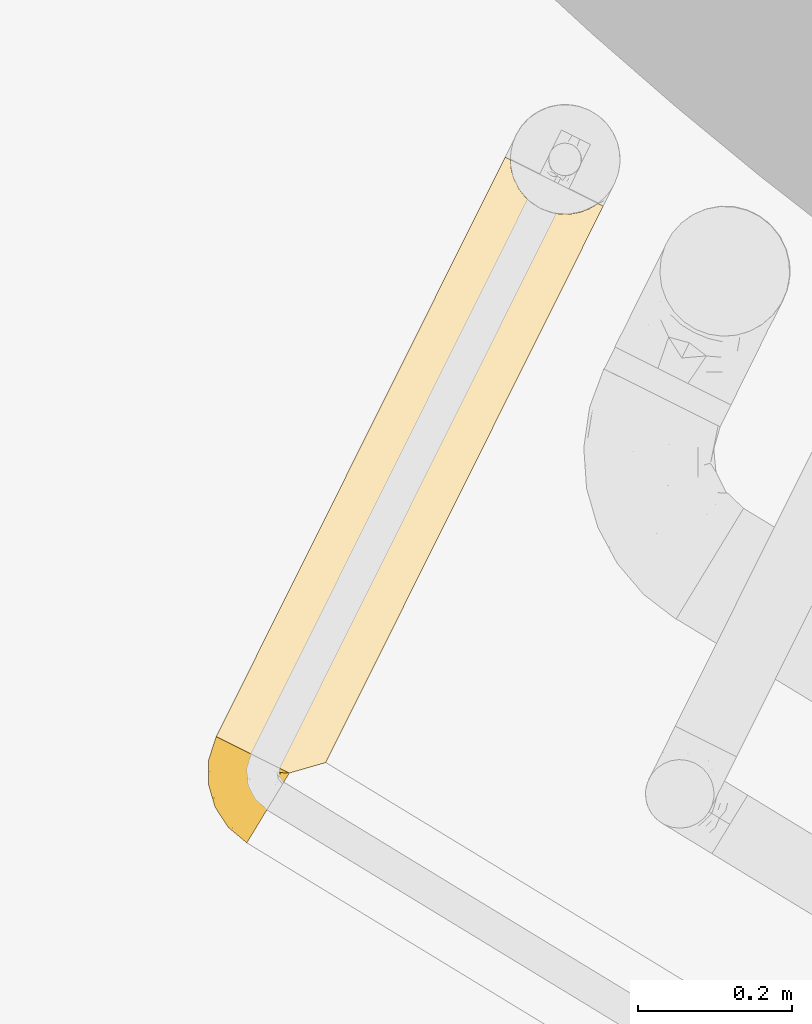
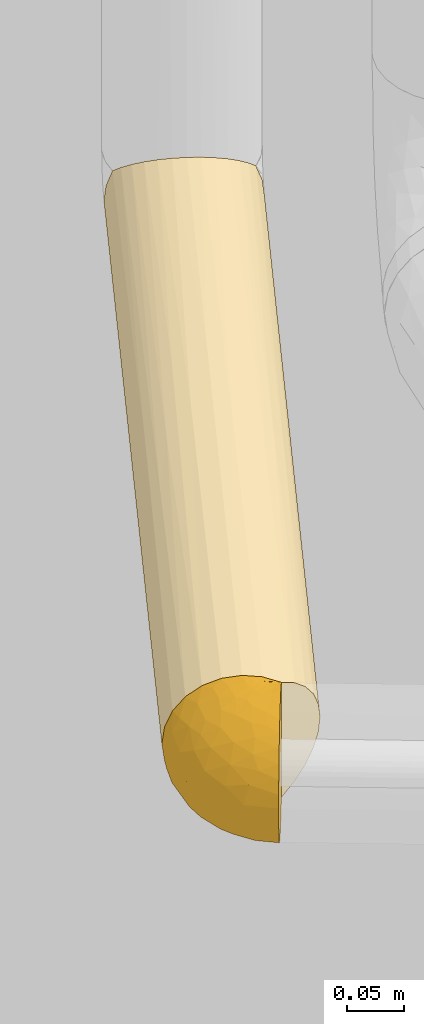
# One storey, part 19 of 47: 2 coverings.
"""IFC2X3 building model written with IfcOpenShell, lengths in metres."""

from ifc_helpers import new_model, entity, si_unit, converted_unit, derived_unit, direction, frame, origin, place, context, subcontext, project, spatial, faceted_brep, element, save


model = new_model("IFC2X3")

# Units and contexts
model_context = context("Model", 3, precision=1e-05, world=origin(), true_north=direction((0.894925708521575, 0.446215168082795)))
context_of_model = context(None, 3, precision=1e-05, world=origin(), true_north=direction((0.894925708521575, 0.446215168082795)))
body_context = subcontext(model_context, "Body", "Model", "MODEL_VIEW")
ifc_project = project(units=[si_unit("LENGTHUNIT", "METRE"), si_unit("AREAUNIT", "SQUARE_METRE"), si_unit("VOLUMEUNIT", "CUBIC_METRE"), converted_unit("PLANEANGLEUNIT", "DEGREE", entity("IfcRatioMeasure", 0.0174532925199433), si_unit("PLANEANGLEUNIT", "RADIAN"), dimensions=[0, 0, 0, 0, 0, 0, 0]), si_unit("MASSUNIT", "GRAM", prefix="KILO"), si_unit("TIMEUNIT", "SECOND"), si_unit("FREQUENCYUNIT", "HERTZ"), si_unit("THERMODYNAMICTEMPERATUREUNIT", "DEGREE_CELSIUS"), derived_unit("THERMALTRANSMITTANCEUNIT", [(si_unit("MASSUNIT", "GRAM", prefix="KILO"), 1), (si_unit("THERMODYNAMICTEMPERATUREUNIT", "KELVIN"), -1), (si_unit("TIMEUNIT", "SECOND"), -3)]), derived_unit("VOLUMETRICFLOWRATEUNIT", [(si_unit("LENGTHUNIT", "METRE"), 3), (si_unit("TIMEUNIT", "SECOND"), -1)]), si_unit("ELECTRICCURRENTUNIT", "AMPERE"), si_unit("ELECTRICVOLTAGEUNIT", "VOLT"), si_unit("POWERUNIT", "WATT"), si_unit("FORCEUNIT", "NEWTON", prefix="KILO"), si_unit("ILLUMINANCEUNIT", "LUX"), si_unit("LUMINOUSFLUXUNIT", "LUMEN"), si_unit("LUMINOUSINTENSITYUNIT", "CANDELA"), si_unit("PRESSUREUNIT", "PASCAL")], contexts=[model_context, context_of_model])

# Site, building, storey
site_placement = place(None, frame((218.228324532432, 584.720189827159, 0.0), z_axis=(0.0, 0.0, 1.0), x_axis=(0.446215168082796, 0.894925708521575, 0.0)))
site = spatial("IfcSite", under=ifc_project, at=site_placement, Name="Default", CompositionType="ELEMENT")
building_placement = place(site_placement, origin())
building = spatial("IfcBuilding", under=site, at=building_placement, CompositionType="ELEMENT")
storey_placement = place(building_placement, frame((0.0, 0.0, 4.69)))
storey = spatial("IfcBuildingStorey", under=building, at=storey_placement, Name="1 - Piano Primo", CompositionType="ELEMENT", Elevation=4.69)

# Coverings
covering_1_placement = place(storey_placement, frame((66.0961811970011, -1.84655450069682, 2.8873227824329)))
element("IfcCovering", 1, at=covering_1_placement, inside=storey, Name="Isolamento tubazione:Default", ObjectType="Isolamento tubazione:Default", PredefinedType="INSULATION", context=body_context, shape_type="Brep", body=[
    faceted_brep([(0.84076615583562, 0.108218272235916, 0.0111184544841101), (0.84076615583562, 0.122939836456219, 0.0224147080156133), (0.84076615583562, 0.134236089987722, 0.0371362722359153), (0.84076615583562, 0.141337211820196, 0.0542798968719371), (0.84076615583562, 0.143759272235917, 0.0726772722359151), (0.84076615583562, 0.141830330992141, 0.089124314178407), (0.84076615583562, 0.136153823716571, 0.104667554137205), (0.84076615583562, 0.00921095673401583, 0.104687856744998), (0.84076615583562, 0.00352683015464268, 0.0891353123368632), (0.84076615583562, 0.00159527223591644, 0.0726772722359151), (0.84076615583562, 0.00401733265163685, 0.0542798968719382), (0.84076615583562, 0.0111184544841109, 0.0371362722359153), (0.84076615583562, 0.0224147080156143, 0.0224147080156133), (0.84076615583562, 0.0371362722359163, 0.0111184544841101), (0.84076615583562, 0.054279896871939, 0.00401733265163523), (0.84076615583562, 0.0726772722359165, 0.00159527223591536), (0.84076615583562, 0.0910746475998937, 0.00401733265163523), (0.0015952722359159, 0.141337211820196, 0.0910746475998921), (0.0015952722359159, 0.143759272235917, 0.0726772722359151), (0.0015952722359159, 0.141337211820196, 0.0542798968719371), (0.0015952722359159, 0.134236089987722, 0.0371362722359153), (0.0015952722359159, 0.122939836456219, 0.0224147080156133), (0.0015952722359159, 0.108218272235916, 0.0111184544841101), (0.0015952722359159, 0.0910746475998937, 0.00401733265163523), (0.0015952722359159, 0.0726772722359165, 0.00159527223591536), (0.0015952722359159, 0.0546774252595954, 0.00391204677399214), (0.0015952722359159, 0.0378514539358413, 0.0107110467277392), (0.0015952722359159, 0.0378514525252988, 0.134643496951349), (0.0015952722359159, 0.0546774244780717, 0.141442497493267), (0.0015952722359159, 0.0726772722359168, 0.143759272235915), (0.0015952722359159, 0.0910746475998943, 0.141337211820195), (0.0015952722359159, 0.108218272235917, 0.13423608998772), (0.0015952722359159, 0.122939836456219, 0.122939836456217), (0.0015952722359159, 0.134236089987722, 0.108218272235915), (0.417337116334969, 0.0319197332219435, 0.0144409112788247), (0.335674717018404, 0.0460465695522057, 0.00677236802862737), (0.421575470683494, 0.00521001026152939, 0.0502982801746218), (0.0291388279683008, 0.00787524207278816, 0.0434651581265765), (0.462194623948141, 0.0162841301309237, 0.0294052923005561), (0.0221673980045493, 0.0154623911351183, 0.0304977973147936), (0.32929526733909, 0.00159527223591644, 0.0726772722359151), (0.0334502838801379, 0.0031829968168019, 0.0577375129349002), (0.251993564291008, 0.0726772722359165, 0.00159527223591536), (0.295981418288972, 0.0726772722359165, 0.00159527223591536), (0.0349091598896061, 0.00159527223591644, 0.0726772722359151), (0.443174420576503, 0.0594188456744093, 0.00284271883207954), (0.0128474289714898, 0.025605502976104, 0.019414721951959), (0.590367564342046, 0.0726772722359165, 0.00159527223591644), (0.490104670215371, 0.084918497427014, 0.00265725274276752), (0.447158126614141, 0.0998791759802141, 0.00700606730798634), (0.508429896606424, 0.142393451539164, 0.0588098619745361), (0.421180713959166, 0.138348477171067, 0.045475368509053), (0.421180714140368, 0.115949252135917, 0.0162841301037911), (0.447158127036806, 0.129070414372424, 0.0294052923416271), (0.421180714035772, 0.143759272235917, 0.0726772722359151), (0.251993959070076, 0.143759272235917, 0.0726772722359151), (0.432455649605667, 0.133248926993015, 0.109875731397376), (0.418784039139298, 0.141983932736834, 0.0884645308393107), (0.508792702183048, 0.10463823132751, 0.136168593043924), (0.395127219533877, 0.11569315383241, 0.129266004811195), (0.806439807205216, 0.0982485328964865, 0.139000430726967), (0.418434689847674, 0.0922175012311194, 0.141020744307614), (0.322690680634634, 0.125516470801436, 0.120223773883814), (0.507299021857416, 0.0726772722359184, 0.143759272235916), (0.802882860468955, 0.0856824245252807, 0.142559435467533), (0.829693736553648, 0.12922942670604, 0.115741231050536), (0.820075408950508, 0.120395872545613, 0.125361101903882), (0.801685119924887, 0.0726772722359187, 0.143759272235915), (0.812235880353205, 0.109951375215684, 0.133202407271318), (0.403985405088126, 0.0567184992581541, 0.141944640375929), (0.416931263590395, 0.04086740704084, 0.136244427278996), (0.322568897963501, 0.029676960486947, 0.129277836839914), (0.0128474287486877, 0.0256055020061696, 0.125939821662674), (0.420476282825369, 0.0199945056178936, 0.120397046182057), (0.802886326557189, 0.059675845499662, 0.142560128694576), (0.812241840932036, 0.0354128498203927, 0.133208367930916), (0.80644525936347, 0.0471130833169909, 0.139003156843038), (0.820080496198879, 0.0249699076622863, 0.12537127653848), (0.429160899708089, 0.00521116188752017, 0.0950597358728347), (0.349680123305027, 0.0112628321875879, 0.108467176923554), (0.0291388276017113, 0.00787524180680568, 0.101889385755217), (0.0221673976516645, 0.015462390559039, 0.114856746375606), (0.829696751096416, 0.0161365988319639, 0.115756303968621), (0.0334502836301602, 0.00318299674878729, 0.0876170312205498)], [[[0, 1, 2, 3, 4, 5, 6, 7, 8, 9, 10, 11, 12, 13, 14, 15, 16]], [[17, 18, 19, 20, 21, 22, 23, 24, 25, 26, 27, 28, 29, 30, 31, 32, 33]], [[12, 34, 13]], [[26, 25, 35]], [[36, 37, 38]], [[37, 39, 38]], [[40, 36, 10]], [[40, 41, 36]], [[25, 24, 42, 43]], [[41, 40, 44]], [[11, 10, 36]], [[35, 45, 14]], [[38, 12, 11]], [[36, 41, 37]], [[34, 46, 26]], [[9, 40, 10]], [[35, 34, 26]], [[25, 45, 35]], [[47, 15, 14]], [[43, 45, 25]], [[12, 38, 34]], [[45, 43, 47]], [[35, 13, 34]], [[36, 38, 11]], [[13, 35, 14]], [[14, 45, 47]], [[38, 46, 34]], [[38, 39, 46]], [[48, 23, 49]], [[19, 50, 51]], [[23, 48, 42]], [[49, 52, 0]], [[52, 49, 22]], [[23, 42, 24]], [[21, 52, 22]], [[48, 15, 47, 43, 42]], [[52, 1, 0]], [[0, 16, 49]], [[20, 51, 53]], [[4, 50, 54]], [[51, 20, 19]], [[51, 2, 53]], [[21, 53, 52]], [[19, 18, 55, 54]], [[1, 52, 53]], [[20, 53, 21]], [[48, 49, 16]], [[2, 1, 53]], [[51, 50, 3]], [[2, 51, 3]], [[22, 49, 23]], [[54, 50, 19]], [[15, 48, 16]], [[50, 4, 3]], [[56, 57, 17]], [[17, 33, 56]], [[31, 58, 59]], [[60, 58, 61]], [[32, 59, 62]], [[63, 61, 29]], [[17, 55, 18]], [[61, 64, 60]], [[6, 57, 56]], [[65, 6, 56]], [[61, 30, 29]], [[66, 65, 62]], [[31, 30, 61]], [[66, 62, 59]], [[57, 4, 54, 55]], [[67, 64, 63]], [[4, 57, 5]], [[63, 64, 61]], [[32, 31, 59]], [[66, 59, 68]], [[62, 65, 56]], [[68, 58, 60]], [[58, 68, 59]], [[6, 5, 57]], [[62, 33, 32]], [[61, 58, 31]], [[33, 62, 56]], [[57, 55, 17]], [[69, 29, 28]], [[27, 70, 28]], [[28, 70, 69]], [[71, 72, 73]], [[74, 67, 63]], [[29, 69, 63]], [[71, 75, 70]], [[75, 76, 70]], [[74, 63, 69]], [[76, 74, 69]], [[75, 71, 77]], [[78, 79, 80]], [[27, 72, 71]], [[40, 8, 78]], [[72, 81, 73]], [[7, 82, 79]], [[83, 78, 80]], [[7, 78, 8]], [[73, 82, 77]], [[82, 73, 79]], [[40, 78, 83]], [[81, 79, 73]], [[7, 79, 78]], [[8, 40, 9]], [[83, 44, 40]], [[77, 71, 73]], [[80, 79, 81]], [[27, 71, 70]], [[76, 69, 70]], [[64, 67, 74, 76, 75, 77, 82, 7, 6, 65, 66, 68, 60]], [[26, 46, 39, 37, 41, 44, 83, 80, 81, 72, 27]]]),
])
covering_2_placement = place(storey_placement, frame((65.9906335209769, -1.81024584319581, 2.8873047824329)))
element("IfcCovering", 2, at=covering_2_placement, inside=storey, Name="Isolamento tubazione:Default", ObjectType="Isolamento tubazione:Default", PredefinedType="INSULATION", context=body_context, shape_type="Brep", body=[
    faceted_brep([(0.0956978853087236, 0.00251246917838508, 0.13985527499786), (0.0842299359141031, 0.00348408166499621, 0.142804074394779), (0.0724414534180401, 0.00448285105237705, 0.143795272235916), (0.0586159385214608, 0.00565420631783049, 0.142428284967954), (0.0453231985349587, 0.00678042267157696, 0.138380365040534), (0.0330739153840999, 0.00781823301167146, 0.131807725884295), (0.0223385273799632, 0.00872777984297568, 0.122963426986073), (0.0135292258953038, 0.00947414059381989, 0.112187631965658), (0.00698418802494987, 0.0100286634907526, 0.0998945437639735), (0.00295464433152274, 0.0103700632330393, 0.0865565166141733), (0.0015952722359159, 0.0104852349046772, 0.0726952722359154), (0.00295737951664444, 0.0103698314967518, 0.0588202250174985), (0.00699084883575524, 0.01002809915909, 0.0454798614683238), (0.0135400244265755, 0.00947322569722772, 0.033186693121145), (0.0223527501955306, 0.00872657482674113, 0.0224128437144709), (0.033090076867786, 0.00781686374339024, 0.0135719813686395), (0.0453392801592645, 0.00677906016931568, 0.00700349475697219), (0.0586296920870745, 0.00565304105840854, 0.00295951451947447), (0.0724414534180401, 0.00448285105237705, 0.00159527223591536), (0.0842464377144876, 0.00348268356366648, 0.00258926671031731), (0.0957136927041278, 0.00251112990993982, 0.00554078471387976), (0.106523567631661, 0.00159527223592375, 0.0103632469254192), (0.106523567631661, 0.0015952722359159, 0.0138043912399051), (0.106523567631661, 0.0015952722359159, 0.0190639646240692), (0.106523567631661, 0.0015952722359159, 0.0234143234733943), (0.106523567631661, 0.0015952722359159, 0.0277646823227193), (0.106523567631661, 0.00159527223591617, 0.0321150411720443), (0.106523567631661, 0.0015952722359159, 0.0364654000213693), (0.106523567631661, 0.0015952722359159, 0.0408157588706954), (0.106523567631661, 0.00159527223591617, 0.0451661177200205), (0.106523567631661, 0.0015952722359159, 0.0495164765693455), (0.106523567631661, 0.0015952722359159, 0.0538668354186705), (0.106523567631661, 0.0015952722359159, 0.0582171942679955), (0.106523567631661, 0.0015952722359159, 0.0625675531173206), (0.106523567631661, 0.0015952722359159, 0.0669179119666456), (0.106523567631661, 0.0015952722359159, 0.0712682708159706), (0.106523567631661, 0.00159527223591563, 0.0756186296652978), (0.106523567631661, 0.0015952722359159, 0.0799689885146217), (0.106523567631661, 0.0015952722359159, 0.0834101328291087), (0.106523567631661, 0.00159527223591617, 0.0868512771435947), (0.106523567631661, 0.0015952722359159, 0.0902924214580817), (0.106523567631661, 0.0015952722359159, 0.0937335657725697), (0.106523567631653, 0.0015952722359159, 0.0971747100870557), (0.106523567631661, 0.0015952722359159, 0.100615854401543), (0.106523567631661, 0.0015952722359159, 0.10405699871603), (0.106523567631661, 0.0015952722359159, 0.107498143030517), (0.106523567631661, 0.0015952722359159, 0.110939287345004), (0.106523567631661, 0.0015952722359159, 0.114380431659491), (0.106523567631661, 0.0015952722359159, 0.117821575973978), (0.106523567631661, 0.0015952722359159, 0.121262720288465), (0.106523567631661, 0.00159527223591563, 0.124703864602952), (0.106523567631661, 0.0015952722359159, 0.128145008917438), (0.10652356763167, 0.00159527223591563, 0.131586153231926), (0.106523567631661, 0.00159527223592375, 0.135027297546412), (0.10714294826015, 0.0363686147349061, 0.00159527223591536), (0.10714294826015, 0.0547706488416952, 0.00401794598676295), (0.10714294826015, 0.0719186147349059, 0.0111208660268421), (0.10714294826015, 0.0866439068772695, 0.0224199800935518), (0.10714294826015, 0.0979430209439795, 0.0371452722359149), (0.10714294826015, 0.105045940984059, 0.0542932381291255), (0.10714294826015, 0.107468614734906, 0.0726952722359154), (0.10714294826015, 0.105045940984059, 0.0910973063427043), (0.10714294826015, 0.0979430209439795, 0.108245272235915), (0.10714294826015, 0.0866439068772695, 0.122970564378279), (0.10714294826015, 0.0719186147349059, 0.134269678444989), (0.10714294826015, 0.0547706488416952, 0.141372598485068), (0.10714294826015, 0.0363686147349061, 0.143795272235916), (0.10714294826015, 0.0187135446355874, 0.141568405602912), (0.10714294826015, 0.00216439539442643, 0.135027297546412), (0.10714294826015, 0.00216439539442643, 0.131586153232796), (0.10714294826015, 0.00216439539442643, 0.1272357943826), (0.10714294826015, 0.00216439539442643, 0.123340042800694), (0.107142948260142, 0.00216439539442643, 0.119444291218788), (0.10714294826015, 0.00216439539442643, 0.115548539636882), (0.10714294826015, 0.00216439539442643, 0.111652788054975), (0.10714294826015, 0.00216439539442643, 0.10775703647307), (0.10714294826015, 0.00216439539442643, 0.103861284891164), (0.10714294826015, 0.00216439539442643, 0.0999655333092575), (0.10714294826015, 0.00216439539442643, 0.0960697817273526), (0.107142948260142, 0.00216439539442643, 0.0921740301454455), (0.107142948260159, 0.00216439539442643, 0.0882782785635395), (0.107142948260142, 0.00216439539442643, 0.0843825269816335), (0.10714294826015, 0.00216439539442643, 0.0804867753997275), (0.10714294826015, 0.00216439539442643, 0.0765910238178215), (0.10714294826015, 0.00216439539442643, 0.0726952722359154), (0.10714294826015, 0.00216439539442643, 0.0683449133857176), (0.107142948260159, 0.00216439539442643, 0.0639945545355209), (0.107142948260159, 0.00216439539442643, 0.059644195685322), (0.10714294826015, 0.00216439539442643, 0.0552938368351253), (0.107142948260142, 0.00216439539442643, 0.0509434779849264), (0.10714294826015, 0.00216439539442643, 0.0465931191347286), (0.10714294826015, 0.00216439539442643, 0.0422427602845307), (0.107142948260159, 0.00216439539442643, 0.0378924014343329), (0.10714294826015, 0.00216439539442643, 0.0344512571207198), (0.10714294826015, 0.00216439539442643, 0.0310101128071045), (0.10714294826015, 0.00216439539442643, 0.0275689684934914), (0.10714294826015, 0.00216439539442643, 0.0241278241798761), (0.107142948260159, 0.00216439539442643, 0.0206866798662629), (0.10714294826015, 0.00216439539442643, 0.0172455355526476), (0.10714294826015, 0.00216439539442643, 0.0138043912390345), (0.10714294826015, 0.00216439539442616, 0.0103632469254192), (0.10714294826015, 0.0102666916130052, 0.00716078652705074), (0.10714294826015, 0.0187135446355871, 0.00382213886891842), (0.106715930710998, 0.00199450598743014, 0.109218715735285), (0.106745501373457, 0.00202073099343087, 0.0361718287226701), (0.106743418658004, 0.00201899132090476, 0.0398022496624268), (0.106712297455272, 0.00199104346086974, 0.0593838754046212), (0.106733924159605, 0.00201086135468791, 0.0627726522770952), (0.106736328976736, 0.00201295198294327, 0.0785389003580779), (0.106722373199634, 0.00200051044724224, 0.0155249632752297), (0.106748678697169, 0.00202335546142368, 0.0190510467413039), (0.106722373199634, 0.00200051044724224, 0.129865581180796), (0.106722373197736, 0.00200051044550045, 0.135027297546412), (0.106722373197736, 0.00200051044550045, 0.0103632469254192), (0.10670962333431, 0.00198845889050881, 0.105454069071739), (0.106702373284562, 0.00198129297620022, 0.0255895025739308), (0.106751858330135, 0.00202594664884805, 0.0941219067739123), (0.106697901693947, 0.00197675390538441, 0.0886828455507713), (0.106685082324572, 0.00196320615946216, 0.0818180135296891), (0.106756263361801, 0.0020294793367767, 0.0661697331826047), (0.106745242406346, 0.00202051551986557, 0.074643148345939), (0.106740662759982, 0.00201666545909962, 0.0711818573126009), (0.106703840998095, 0.00198276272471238, 0.0851307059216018), (0.106708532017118, 0.00198739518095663, 0.0433993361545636), (0.106699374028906, 0.00197825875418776, 0.0469286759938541), (0.106748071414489, 0.00202285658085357, 0.11360066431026), (0.106690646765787, 0.00196918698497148, 0.0516916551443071), (0.106750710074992, 0.0020250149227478, 0.0327075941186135), (0.106683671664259, 0.00196166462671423, 0.10217519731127), (0.106697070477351, 0.00197589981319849, 0.119445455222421), (0.106700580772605, 0.00197948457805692, 0.122983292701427), (0.106692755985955, 0.0019714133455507, 0.126430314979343), (0.106615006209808, 0.00178165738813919, 0.0103632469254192), (0.106668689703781, 0.00189108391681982, 0.0103632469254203), (0.106668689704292, 0.00189108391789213, 0.135027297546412), (0.106615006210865, 0.00178165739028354, 0.135027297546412), (0.106949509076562, 0.0020890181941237, 0.135027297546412), (0.106835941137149, 0.00204476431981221, 0.135027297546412), (0.106835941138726, 0.00204476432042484, 0.0103632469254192), (0.106949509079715, 0.00208901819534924, 0.0103632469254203), (0.106769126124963, 0.00203942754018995, 0.0223480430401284), (0.106708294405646, 0.00198716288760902, 0.0988952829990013), (0.106729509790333, 0.00200696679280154, 0.0292486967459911), (0.106711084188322, 0.00198987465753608, 0.0550887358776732), (0.101057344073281, 0.00717078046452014, 0.00673307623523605), (0.10118586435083, 0.00949714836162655, 0.0060935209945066), (0.0957205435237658, 0.0334798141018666, 0.00159527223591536), (0.100163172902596, 0.0172309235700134, 0.00382213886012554), (0.0905865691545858, 0.0321813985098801, 0.00159527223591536), (0.104483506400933, 0.0140627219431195, 0.00509319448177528), (0.103701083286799, 0.00881348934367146, 0.00683211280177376), (0.0914281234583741, 0.00844204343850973, 0.00382422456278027), (0.0987077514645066, 0.00688905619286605, 0.00607522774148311), (0.102425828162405, 0.0260764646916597, 0.00227986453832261), (0.0780114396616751, 0.020626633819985, 0.00159527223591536), (0.0829852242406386, 0.0133943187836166, 0.00203748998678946), (0.0752264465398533, 0.0125547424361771, 0.00159527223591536), (0.0842739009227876, 0.00799945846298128, 0.00246120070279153), (0.0750105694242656, 0.0119290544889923, 0.00159527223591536), (0.0904884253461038, 0.0129521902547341, 0.00311841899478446), (0.0842990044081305, 0.0264040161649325, 0.00159527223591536), (0.0968047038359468, 0.016773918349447, 0.00351669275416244), (0.093993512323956, 0.0149517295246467, 0.00342942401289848), (0.099506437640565, 0.0344372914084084, 0.00159527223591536), (0.0411150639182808, 0.0191414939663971, 0.00998578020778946), (0.0543571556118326, 0.0185416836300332, 0.00465388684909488), (0.0935365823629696, 0.0491386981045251, 0.00312657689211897), (0.0768750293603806, 0.0440047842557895, 0.00373706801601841), (0.0965966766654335, 0.0626743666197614, 0.00700743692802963), (0.0837845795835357, 0.0590117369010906, 0.00700743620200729), (0.0342625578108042, 0.0741682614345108, 0.052135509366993), (0.041992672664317, 0.0683662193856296, 0.0322870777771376), (0.0236408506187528, 0.051929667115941, 0.0391718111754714), (0.0761176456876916, 0.102823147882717, 0.0726952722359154), (0.0629368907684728, 0.094026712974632, 0.0509094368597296), (0.0478136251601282, 0.0892942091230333, 0.0726952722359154), (0.0198491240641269, 0.0568078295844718, 0.0536126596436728), (0.00884336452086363, 0.0410076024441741, 0.0726952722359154), (0.0247134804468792, 0.0680684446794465, 0.0726952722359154), (0.0103510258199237, 0.0363572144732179, 0.0520505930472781), (0.0513993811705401, 0.0588173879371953, 0.017727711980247), (0.0567398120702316, 0.0445726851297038, 0.00892761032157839), (0.0353632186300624, 0.0482397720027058, 0.022957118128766), (0.0625274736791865, 0.0298293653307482, 0.0039117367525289), (0.0860783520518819, 0.0998244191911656, 0.0454864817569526), (0.070871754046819, 0.0852560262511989, 0.029412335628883), (0.086869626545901, 0.104296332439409, 0.0597338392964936), (0.0459729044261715, 0.0319996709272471, 0.00998577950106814), (0.0870925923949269, 0.0770342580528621, 0.016287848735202), (0.0330285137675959, 0.0295433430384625, 0.0171641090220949), (0.0904975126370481, 0.0912447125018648, 0.0294123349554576), (0.0720624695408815, 0.0346667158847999, 0.00287360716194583), (0.0563756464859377, 0.0761927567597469, 0.0281938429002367), (0.0506438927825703, 0.0823798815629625, 0.0413113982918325), (0.0226607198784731, 0.0319293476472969, 0.0275825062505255), (0.0655675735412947, 0.0715806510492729, 0.0190150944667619), (0.0154140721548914, 0.0346682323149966, 0.0391722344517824), (0.0673703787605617, 0.057264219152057, 0.010053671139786), (0.0103482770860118, 0.0363630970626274, 0.0933248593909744), (0.086869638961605, 0.104296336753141, 0.0856566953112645), (0.0625253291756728, 0.0298430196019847, 0.141476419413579), (0.0459639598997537, 0.0320182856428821, 0.13539605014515), (0.0543442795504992, 0.0185509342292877, 0.140732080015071), (0.0870925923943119, 0.0770342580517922, 0.129102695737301), (0.0629370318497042, 0.0940264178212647, 0.0944821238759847), (0.0860786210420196, 0.0998244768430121, 0.0999040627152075), (0.0236399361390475, 0.0519450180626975, 0.106202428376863), (0.0342501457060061, 0.0741617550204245, 0.0932411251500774), (0.0189042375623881, 0.0573781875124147, 0.0872478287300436), (0.0420080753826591, 0.0684075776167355, 0.113076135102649), (0.096596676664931, 0.0626743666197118, 0.138383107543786), (0.0935365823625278, 0.0491386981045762, 0.142263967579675), (0.0514108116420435, 0.0588499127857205, 0.127650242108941), (0.0353594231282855, 0.0482685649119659, 0.122414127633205), (0.0567423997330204, 0.0445955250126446, 0.13645658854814), (0.0655870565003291, 0.0715975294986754, 0.126371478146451), (0.0708938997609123, 0.0852656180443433, 0.11597820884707), (0.0411009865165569, 0.0191519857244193, 0.13539604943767), (0.0837845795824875, 0.0590117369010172, 0.138383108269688), (0.0330188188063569, 0.0295588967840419, 0.128214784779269), (0.013150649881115, 0.0275920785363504, 0.106202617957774), (0.0226503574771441, 0.0319377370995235, 0.11779269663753), (0.0905865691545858, 0.0321813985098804, 0.143795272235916), (0.0957205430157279, 0.0334798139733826, 0.143795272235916), (0.099506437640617, 0.034437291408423, 0.143795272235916), (0.0887823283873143, 0.0929109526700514, 0.113294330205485), (0.0750105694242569, 0.0119290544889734, 0.143795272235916), (0.0752264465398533, 0.0125547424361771, 0.143795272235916), (0.0780114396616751, 0.0206266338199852, 0.143795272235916), (0.0768750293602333, 0.0440047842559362, 0.141653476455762), (0.0673896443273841, 0.0572888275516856, 0.13533212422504), (0.0842990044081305, 0.0264040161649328, 0.143795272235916), (0.0720667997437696, 0.0346675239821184, 0.142517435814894), (0.0563934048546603, 0.076208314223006, 0.117193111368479), (0.0506989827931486, 0.0824092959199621, 0.104094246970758), (0.1026710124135, 0.0268968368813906, 0.143213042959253), (0.0964289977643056, 0.0256240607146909, 0.143289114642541), (0.0950499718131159, 0.0196037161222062, 0.142579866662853), (0.101481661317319, 0.0096724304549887, 0.139285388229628), (0.10016317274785, 0.0172309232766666, 0.141568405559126), (0.091415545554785, 0.00845386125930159, 0.1415704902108), (0.0939940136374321, 0.0149640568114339, 0.141963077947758), (0.100452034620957, 0.00797964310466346, 0.139049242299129), (0.0994723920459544, 0.00600270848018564, 0.138889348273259), (0.0928627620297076, 0.0114362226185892, 0.141619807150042), (0.0990604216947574, 0.00431344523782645, 0.13875954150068), (0.10397658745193, 0.0164491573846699, 0.141044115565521)], [[[0, 1, 2, 3, 4, 5, 6, 7, 8, 9, 10, 11, 12, 13, 14, 15, 16, 17, 18, 19, 20, 21, 22, 23, 24, 25, 26, 27, 28, 29, 30, 31, 32, 33, 34, 35, 36, 37, 38, 39, 40, 41, 42, 43, 44, 45, 46, 47, 48, 49, 50, 51, 52, 53]], [[54, 55, 56, 57, 58, 59, 60, 61, 62, 63, 64, 65, 66, 67, 68, 69, 70, 71, 72, 73, 74, 75, 76, 77, 78, 79, 80, 81, 82, 83, 84, 85, 86, 87, 88, 89, 90, 91, 92, 93, 94, 95, 96, 97, 98, 99, 100, 101, 102]], [[45, 103, 46]], [[27, 104, 105]], [[106, 87, 107]], [[83, 82, 108]], [[109, 110, 23]], [[37, 36, 108]], [[111, 112, 52, 51]], [[22, 113, 109, 23]], [[103, 114, 75]], [[25, 24, 115]], [[92, 105, 104]], [[116, 40, 117]], [[37, 118, 38]], [[33, 107, 119]], [[120, 121, 84]], [[69, 112, 111]], [[99, 109, 113]], [[120, 36, 35]], [[80, 117, 122]], [[119, 34, 33]], [[123, 124, 29]], [[73, 125, 74]], [[123, 91, 90]], [[126, 89, 88]], [[104, 27, 127]], [[27, 26, 127]], [[122, 81, 80]], [[128, 77, 76]], [[129, 130, 49]], [[130, 129, 72]], [[109, 98, 110]], [[98, 109, 99]], [[111, 70, 69]], [[50, 49, 130]], [[71, 70, 131]], [[22, 21, 132, 133, 113]], [[52, 112, 134, 135, 53]], [[69, 68, 136, 137, 112]], [[99, 113, 138, 139, 100]], [[130, 71, 131]], [[50, 131, 51]], [[111, 51, 131]], [[123, 105, 91]], [[71, 130, 72]], [[46, 125, 48, 47]], [[73, 72, 129]], [[129, 48, 125]], [[140, 24, 23]], [[129, 125, 73]], [[129, 49, 48]], [[83, 120, 84]], [[110, 97, 140]], [[120, 83, 108]], [[24, 140, 115]], [[110, 98, 97]], [[82, 118, 108]], [[38, 118, 122]], [[38, 122, 39]], [[117, 39, 122]], [[82, 81, 118]], [[40, 39, 117]], [[85, 119, 86]], [[78, 116, 79]], [[117, 80, 79]], [[41, 40, 116, 42]], [[36, 120, 108]], [[35, 121, 120]], [[121, 85, 84]], [[35, 34, 121]], [[119, 85, 121]], [[81, 122, 118]], [[108, 118, 37]], [[111, 131, 70]], [[130, 131, 50]], [[125, 103, 74]], [[75, 74, 103]], [[125, 46, 103]], [[76, 75, 114]], [[77, 128, 141]], [[78, 141, 116]], [[114, 103, 45]], [[114, 44, 128]], [[43, 141, 128]], [[116, 141, 42]], [[42, 141, 43]], [[77, 141, 78]], [[79, 116, 117]], [[95, 142, 115]], [[43, 128, 44]], [[114, 45, 44]], [[114, 128, 76]], [[25, 115, 142]], [[140, 97, 96]], [[93, 92, 104]], [[115, 96, 95]], [[26, 25, 142]], [[93, 127, 94]], [[142, 94, 127]], [[28, 27, 105]], [[29, 28, 123]], [[105, 92, 91]], [[23, 110, 140]], [[115, 140, 96]], [[142, 127, 26]], [[104, 127, 93]], [[95, 94, 142]], [[105, 123, 28]], [[30, 126, 31]], [[90, 124, 123]], [[124, 30, 29]], [[90, 89, 124]], [[126, 30, 124]], [[107, 86, 119]], [[34, 119, 121]], [[106, 143, 88]], [[107, 33, 106]], [[87, 86, 107]], [[126, 88, 143]], [[143, 31, 126]], [[89, 126, 124]], [[143, 32, 31]], [[106, 32, 143]], [[88, 87, 106]], [[32, 106, 33]], [[144, 145, 113]], [[146, 147, 148]], [[139, 149, 100]], [[150, 149, 139]], [[145, 138, 113]], [[20, 151, 132]], [[133, 152, 144]], [[54, 102, 153]], [[132, 21, 20]], [[154, 155, 156]], [[157, 18, 158, 156]], [[155, 157, 156]], [[159, 154, 160]], [[151, 159, 152]], [[147, 150, 161]], [[19, 157, 20]], [[149, 153, 102]], [[155, 159, 151]], [[160, 148, 161]], [[157, 155, 151]], [[154, 159, 155]], [[152, 132, 151]], [[145, 144, 162]], [[144, 159, 162]], [[132, 152, 133]], [[20, 157, 151]], [[157, 19, 18]], [[149, 102, 101, 100]], [[153, 147, 146]], [[147, 153, 149]], [[153, 146, 163, 54]], [[159, 160, 162]], [[150, 139, 138]], [[161, 145, 162]], [[145, 161, 150]], [[145, 150, 138]], [[149, 150, 147]], [[133, 144, 113]], [[144, 152, 159]], [[160, 161, 162]], [[148, 147, 161]], [[164, 165, 16]], [[166, 148, 167]], [[168, 56, 55]], [[169, 168, 166]], [[170, 171, 172]], [[173, 174, 175]], [[176, 177, 178]], [[12, 11, 179]], [[180, 181, 182]], [[183, 154, 156, 158]], [[174, 184, 185]], [[59, 186, 60]], [[165, 187, 183]], [[184, 59, 58]], [[56, 168, 188]], [[189, 187, 164]], [[58, 57, 190]], [[167, 169, 166]], [[183, 191, 154]], [[192, 193, 185]], [[194, 14, 13]], [[189, 14, 194]], [[183, 158, 165]], [[165, 17, 16]], [[188, 169, 195]], [[170, 175, 174]], [[184, 186, 59]], [[158, 17, 165]], [[187, 189, 182]], [[12, 179, 196]], [[196, 13, 12]], [[170, 172, 176]], [[56, 188, 57]], [[171, 180, 182]], [[11, 10, 177]], [[172, 194, 196]], [[11, 177, 179]], [[158, 18, 17]], [[190, 188, 185]], [[15, 164, 16]], [[55, 54, 163]], [[169, 197, 195]], [[15, 14, 189]], [[165, 164, 187]], [[189, 164, 15]], [[189, 194, 182]], [[194, 172, 182]], [[171, 182, 172]], [[176, 172, 179]], [[195, 192, 185]], [[175, 170, 178]], [[193, 174, 185]], [[181, 187, 182]], [[160, 191, 167]], [[181, 197, 167]], [[160, 167, 148]], [[181, 183, 187]], [[197, 181, 180]], [[191, 181, 167]], [[197, 180, 195]], [[169, 167, 197]], [[192, 180, 171]], [[188, 195, 185]], [[184, 58, 190]], [[186, 174, 173]], [[188, 190, 57]], [[184, 190, 185]], [[174, 186, 184]], [[60, 186, 173]], [[166, 55, 163]], [[188, 168, 169]], [[55, 166, 168]], [[166, 163, 146, 148]], [[180, 192, 195]], [[192, 171, 193]], [[171, 170, 193]], [[170, 174, 193]], [[196, 194, 13]], [[179, 172, 196]], [[177, 176, 179]], [[178, 170, 176]], [[154, 191, 160]], [[181, 191, 183]], [[177, 9, 198]], [[60, 173, 199]], [[200, 201, 202]], [[64, 63, 203]], [[173, 175, 204]], [[199, 204, 205]], [[206, 207, 208]], [[207, 206, 209]], [[65, 210, 211]], [[175, 178, 207]], [[212, 213, 214]], [[65, 64, 210]], [[215, 203, 216]], [[202, 217, 4]], [[218, 210, 203]], [[208, 177, 198]], [[62, 61, 205]], [[219, 5, 217]], [[220, 7, 221]], [[211, 222, 223, 224]], [[198, 220, 206]], [[221, 7, 6]], [[4, 3, 202]], [[7, 220, 8]], [[10, 9, 177]], [[62, 205, 225]], [[200, 226, 227, 228]], [[201, 213, 219]], [[4, 217, 5]], [[5, 219, 6]], [[222, 211, 229]], [[221, 219, 213]], [[226, 200, 202]], [[213, 209, 206]], [[207, 178, 208]], [[3, 226, 202]], [[3, 2, 226]], [[201, 217, 202]], [[225, 203, 63]], [[198, 9, 8]], [[230, 215, 212]], [[225, 205, 216]], [[224, 66, 65]], [[219, 217, 201]], [[231, 222, 229]], [[201, 200, 214]], [[228, 231, 232]], [[214, 230, 212]], [[232, 231, 229]], [[201, 214, 213]], [[6, 219, 221]], [[209, 213, 212]], [[206, 221, 213]], [[233, 212, 215]], [[216, 234, 233]], [[233, 234, 209]], [[175, 207, 204]], [[232, 214, 200]], [[230, 214, 229]], [[229, 218, 230]], [[215, 218, 203]], [[215, 230, 218]], [[233, 215, 216]], [[199, 205, 61]], [[216, 205, 204]], [[203, 225, 216]], [[63, 62, 225]], [[60, 199, 61]], [[204, 199, 173]], [[203, 210, 64]], [[211, 210, 218]], [[211, 218, 229]], [[65, 211, 224]], [[234, 216, 204]], [[212, 233, 209]], [[204, 207, 234]], [[207, 209, 234]], [[206, 220, 221]], [[8, 220, 198]], [[214, 232, 229]], [[228, 232, 200]], [[177, 208, 178]], [[206, 208, 198]], [[235, 66, 224, 223]], [[236, 235, 223]], [[222, 236, 223]], [[231, 237, 222]], [[238, 136, 239]], [[240, 1, 0]], [[1, 227, 226, 2]], [[239, 237, 238]], [[240, 227, 1]], [[231, 241, 237]], [[134, 242, 243]], [[239, 236, 237]], [[244, 228, 240]], [[135, 243, 245]], [[68, 67, 246]], [[242, 112, 238]], [[246, 67, 235]], [[53, 135, 245]], [[239, 246, 235]], [[239, 235, 236]], [[66, 235, 67]], [[241, 231, 228]], [[237, 236, 222]], [[241, 242, 238]], [[241, 238, 237]], [[238, 112, 137, 136]], [[239, 136, 246]], [[68, 246, 136]], [[243, 244, 240]], [[243, 240, 245]], [[243, 135, 134]], [[134, 112, 242]], [[244, 242, 241]], [[240, 0, 245]], [[53, 245, 0]], [[242, 244, 243]], [[228, 244, 241]], [[240, 228, 227]]]),
])

save(model, "model.ifc")
